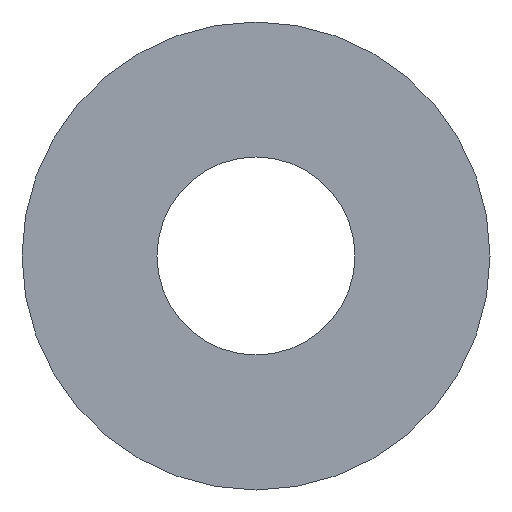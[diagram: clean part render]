
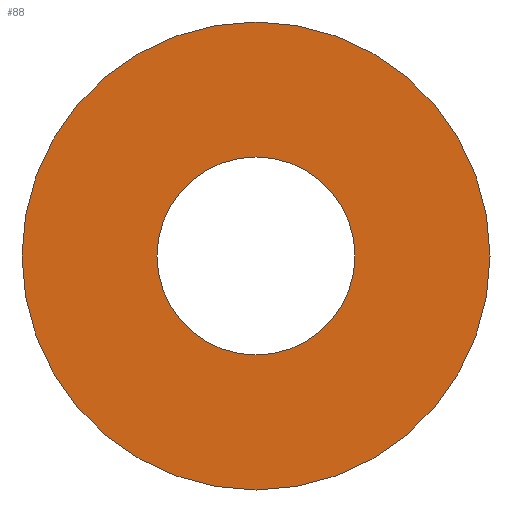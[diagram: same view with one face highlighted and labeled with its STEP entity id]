
A CAD part, front view. The second image highlights one B-rep face of the part: STEP entity #88.
In plain terms, the highlighted planar face has unit normal (0, -1, 0).
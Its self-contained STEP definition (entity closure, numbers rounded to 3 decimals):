
#17 = DIRECTION ( 'NONE',  ( 0., 1., 0. ) ) ;
#19 = VERTEX_POINT ( 'NONE', #121 ) ;
#20 = AXIS2_PLACEMENT_3D ( 'NONE', #22, #117, #82 ) ;
#22 = CARTESIAN_POINT ( 'NONE',  ( 0., 0., -2.75 ) ) ;
#24 = AXIS2_PLACEMENT_3D ( 'NONE', #154, #120, #144 ) ;
#35 = FACE_OUTER_BOUND ( 'NONE', #67, .T. ) ;
#36 = FACE_BOUND ( 'NONE', #108, .T. ) ;
#44 = CIRCLE ( 'NONE', #24, 2.75 ) ;
#47 = AXIS2_PLACEMENT_3D ( 'NONE', #69, #17, #57 ) ;
#57 = DIRECTION ( 'NONE',  ( 0., 0., 1. ) ) ;
#67 = EDGE_LOOP ( 'NONE', ( #140 ) ) ;
#69 = CARTESIAN_POINT ( 'NONE',  ( 0., 0., 0. ) ) ;
#73 = VERTEX_POINT ( 'NONE', #84 ) ;
#82 = DIRECTION ( 'NONE',  ( 0., 0., 1. ) ) ;
#84 = CARTESIAN_POINT ( 'NONE',  ( 0., 0., 6.5 ) ) ;
#88 = ADVANCED_FACE ( 'NONE', ( #35, #36 ), #136, .F. ) ;
#108 = EDGE_LOOP ( 'NONE', ( #126 ) ) ;
#117 = DIRECTION ( 'NONE',  ( 0., 1., 0. ) ) ;
#120 = DIRECTION ( 'NONE',  ( 0., 1., 0. ) ) ;
#121 = CARTESIAN_POINT ( 'NONE',  ( 0., 0., 2.75 ) ) ;
#126 = ORIENTED_EDGE ( 'NONE', *, *, #152, .T. ) ;
#135 = CIRCLE ( 'NONE', #47, 6.5 ) ;
#136 = PLANE ( 'NONE',  #20 ) ;
#138 = EDGE_CURVE ( 'NONE', #73, #73, #135, .T. ) ;
#140 = ORIENTED_EDGE ( 'NONE', *, *, #138, .F. ) ;
#144 = DIRECTION ( 'NONE',  ( 0., 0., 1. ) ) ;
#152 = EDGE_CURVE ( 'NONE', #19, #19, #44, .T. ) ;
#154 = CARTESIAN_POINT ( 'NONE',  ( 0., 0., 0. ) ) ;
